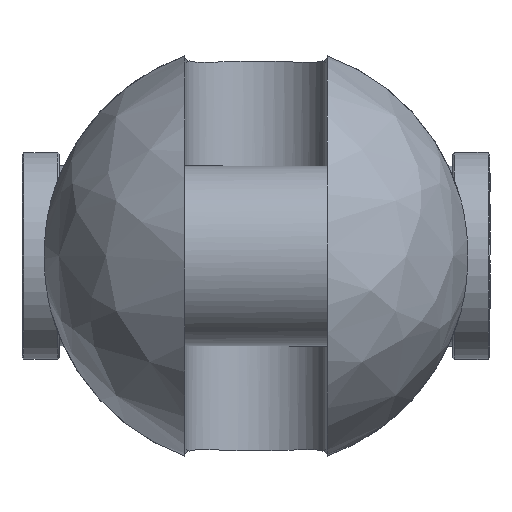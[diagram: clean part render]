
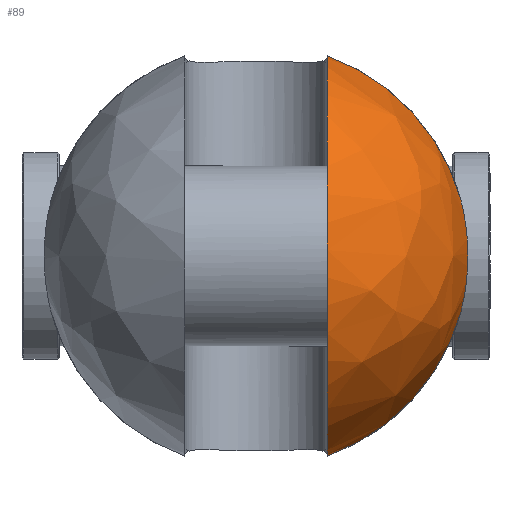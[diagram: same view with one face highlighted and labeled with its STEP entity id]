
A CAD part, left-side view. The second image highlights one B-rep face of the part: STEP entity #89.
In plain terms, the highlighted free-form (B-spline) face has degree [2, 2] with [9, 5] control points.
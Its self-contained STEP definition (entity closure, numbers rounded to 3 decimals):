
#89=ADVANCED_FACE('',(#164),#1301,.T.);
#164=FACE_OUTER_BOUND('',#249,.T.);
#249=EDGE_LOOP('',(#583,#584,#585,#586));
#583=ORIENTED_EDGE('',*,*,#809,.T.);
#584=ORIENTED_EDGE('',*,*,#833,.F.);
#585=ORIENTED_EDGE('',*,*,#845,.T.);
#586=ORIENTED_EDGE('',*,*,#825,.F.);
#809=EDGE_CURVE('',#1188,#1187,#1042,.T.);
#825=EDGE_CURVE('',#1188,#1200,#1052,.T.);
#833=EDGE_CURVE('',#1207,#1187,#1053,.T.);
#845=EDGE_CURVE('',#1207,#1200,#960,.T.);
#960=B_SPLINE_CURVE_WITH_KNOTS('',3,(#3146,#3147,#3148,#3149,#3150,#3151,
#3152,#3153,#3154,#3155,#3156,#3157,#3158,#3159),.UNSPECIFIED.,.F.,.F.,
(4,2,2,2,2,2,4),(0.,4.397,10.811,17.225,23.64,
30.054,34.451),.UNSPECIFIED.);
#1042=(
BOUNDED_CURVE()
B_SPLINE_CURVE(2,(#2914,#2915,#2916,#2917,#2918),.UNSPECIFIED.,.F.,.F.)
B_SPLINE_CURVE_WITH_KNOTS((3,2,3),(-184.934,-92.467,
0.),.UNSPECIFIED.)
CURVE()
GEOMETRIC_REPRESENTATION_ITEM()
RATIONAL_B_SPLINE_CURVE((1.,0.707,1.,0.707,1.))
REPRESENTATION_ITEM('')
);
#1052=(
BOUNDED_CURVE()
B_SPLINE_CURVE(2,(#3016,#3017,#3018),.UNSPECIFIED.,.F.,.F.)
B_SPLINE_CURVE_WITH_KNOTS((3,3),(0.,60.345),.UNSPECIFIED.)
CURVE()
GEOMETRIC_REPRESENTATION_ITEM()
RATIONAL_B_SPLINE_CURVE((1.,0.886,1.))
REPRESENTATION_ITEM('')
);
#1053=(
BOUNDED_CURVE()
B_SPLINE_CURVE(2,(#3073,#3074,#3075),.UNSPECIFIED.,.F.,.F.)
B_SPLINE_CURVE_WITH_KNOTS((3,3),(0.,60.345),.UNSPECIFIED.)
CURVE()
GEOMETRIC_REPRESENTATION_ITEM()
RATIONAL_B_SPLINE_CURVE((1.,0.886,1.))
REPRESENTATION_ITEM('')
);
#1187=VERTEX_POINT('',#2832);
#1188=VERTEX_POINT('',#2833);
#1200=VERTEX_POINT('',#2845);
#1207=VERTEX_POINT('',#2852);
#1301=(
BOUNDED_SURFACE()
B_SPLINE_SURFACE(2,2,((#2440,#2441,#2442,#2443,#2444),(#2445,#2446,#2447,
#2448,#2449),(#2450,#2451,#2452,#2453,#2454),(#2455,#2456,#2457,#2458,#2459),
(#2460,#2461,#2462,#2463,#2464),(#2465,#2466,#2467,#2468,#2469),(#2470,
#2471,#2472,#2473,#2474),(#2475,#2476,#2477,#2478,#2479),(#2480,#2481,#2482,
#2483,#2484)),.UNSPECIFIED.,.T.,.F.,.F.)
B_SPLINE_SURFACE_WITH_KNOTS((3,2,2,2,3),(3,2,3),(0.,98.175,196.35,
294.524,392.699),(0.,98.175,196.35),
 .UNSPECIFIED.)
GEOMETRIC_REPRESENTATION_ITEM()
RATIONAL_B_SPLINE_SURFACE(((1.,0.707,1.,0.707,1.),
(0.707,0.5,0.707,0.5,0.707),(1.,0.707,
1.,0.707,1.),(0.707,0.5,0.707,0.5,0.707),
(1.,0.707,1.,0.707,1.),(0.707,0.5,0.707,
0.5,0.707),(1.,0.707,1.,0.707,1.),(0.707,
0.5,0.707,0.5,0.707),(1.,0.707,1.,0.707,
1.)))
REPRESENTATION_ITEM('')
SURFACE()
);
#2440=CARTESIAN_POINT('',(-89.5,0.,0.));
#2441=CARTESIAN_POINT('',(-89.5,62.5,0.));
#2442=CARTESIAN_POINT('',(-27.,62.5,0.));
#2443=CARTESIAN_POINT('',(35.5,62.5,0.));
#2444=CARTESIAN_POINT('',(35.5,0.,0.));
#2445=CARTESIAN_POINT('',(-89.5,0.,0.));
#2446=CARTESIAN_POINT('',(-89.5,62.5,62.5));
#2447=CARTESIAN_POINT('',(-27.,62.5,62.5));
#2448=CARTESIAN_POINT('',(35.5,62.5,62.5));
#2449=CARTESIAN_POINT('',(35.5,0.,0.));
#2450=CARTESIAN_POINT('',(-89.5,0.,0.));
#2451=CARTESIAN_POINT('',(-89.5,0.,62.5));
#2452=CARTESIAN_POINT('',(-27.,0.,62.5));
#2453=CARTESIAN_POINT('',(35.5,0.,62.5));
#2454=CARTESIAN_POINT('',(35.5,0.,0.));
#2455=CARTESIAN_POINT('',(-89.5,0.,0.));
#2456=CARTESIAN_POINT('',(-89.5,-62.5,62.5));
#2457=CARTESIAN_POINT('',(-27.,-62.5,62.5));
#2458=CARTESIAN_POINT('',(35.5,-62.5,62.5));
#2459=CARTESIAN_POINT('',(35.5,0.,0.));
#2460=CARTESIAN_POINT('',(-89.5,0.,0.));
#2461=CARTESIAN_POINT('',(-89.5,-62.5,0.));
#2462=CARTESIAN_POINT('',(-27.,-62.5,0.));
#2463=CARTESIAN_POINT('',(35.5,-62.5,0.));
#2464=CARTESIAN_POINT('',(35.5,0.,0.));
#2465=CARTESIAN_POINT('',(-89.5,0.,0.));
#2466=CARTESIAN_POINT('',(-89.5,-62.5,-62.5));
#2467=CARTESIAN_POINT('',(-27.,-62.5,-62.5));
#2468=CARTESIAN_POINT('',(35.5,-62.5,-62.5));
#2469=CARTESIAN_POINT('',(35.5,0.,0.));
#2470=CARTESIAN_POINT('',(-89.5,0.,0.));
#2471=CARTESIAN_POINT('',(-89.5,0.,-62.5));
#2472=CARTESIAN_POINT('',(-27.,0.,-62.5));
#2473=CARTESIAN_POINT('',(35.5,0.,-62.5));
#2474=CARTESIAN_POINT('',(35.5,0.,0.));
#2475=CARTESIAN_POINT('',(-89.5,0.,0.));
#2476=CARTESIAN_POINT('',(-89.5,62.5,-62.5));
#2477=CARTESIAN_POINT('',(-27.,62.5,-62.5));
#2478=CARTESIAN_POINT('',(35.5,62.5,-62.5));
#2479=CARTESIAN_POINT('',(35.5,0.,0.));
#2480=CARTESIAN_POINT('',(-89.5,0.,0.));
#2481=CARTESIAN_POINT('',(-89.5,62.5,0.));
#2482=CARTESIAN_POINT('',(-27.,62.5,0.));
#2483=CARTESIAN_POINT('',(35.5,62.5,0.));
#2484=CARTESIAN_POINT('',(35.5,0.,0.));
#2832=CARTESIAN_POINT('',(-27.,-21.,-58.866));
#2833=CARTESIAN_POINT('',(-27.,-21.,58.866));
#2845=CARTESIAN_POINT('',(-27.,-60.357,16.225));
#2852=CARTESIAN_POINT('',(-27.,-60.357,-16.225));
#2914=CARTESIAN_POINT('',(-27.,-21.,58.866));
#2915=CARTESIAN_POINT('',(-85.866,-21.,58.866));
#2916=CARTESIAN_POINT('',(-85.866,-21.,0.));
#2917=CARTESIAN_POINT('',(-85.866,-21.,-58.866));
#2918=CARTESIAN_POINT('',(-27.,-21.,-58.866));
#3016=CARTESIAN_POINT('',(-27.,-21.,58.866));
#3017=CARTESIAN_POINT('',(-27.,-51.853,47.86));
#3018=CARTESIAN_POINT('',(-27.,-60.357,16.225));
#3073=CARTESIAN_POINT('',(-27.,-60.357,-16.225));
#3074=CARTESIAN_POINT('',(-27.,-51.853,-47.86));
#3075=CARTESIAN_POINT('',(-27.,-21.,-58.866));
#3146=CARTESIAN_POINT('',(-27.,-60.357,-16.225));
#3147=CARTESIAN_POINT('',(-27.742,-60.689,-14.99));
#3148=CARTESIAN_POINT('',(-28.407,-60.984,-13.691));
#3149=CARTESIAN_POINT('',(-29.815,-61.605,-10.386));
#3150=CARTESIAN_POINT('',(-30.454,-61.883,-8.326));
#3151=CARTESIAN_POINT('',(-31.297,-62.25,-4.157));
#3152=CARTESIAN_POINT('',(-31.5,-62.338,-2.048));
#3153=CARTESIAN_POINT('',(-31.5,-62.338,2.048));
#3154=CARTESIAN_POINT('',(-31.297,-62.25,4.157));
#3155=CARTESIAN_POINT('',(-30.454,-61.883,8.326));
#3156=CARTESIAN_POINT('',(-29.815,-61.605,10.386));
#3157=CARTESIAN_POINT('',(-28.407,-60.984,13.691));
#3158=CARTESIAN_POINT('',(-27.742,-60.689,14.99));
#3159=CARTESIAN_POINT('',(-27.,-60.357,16.225));
